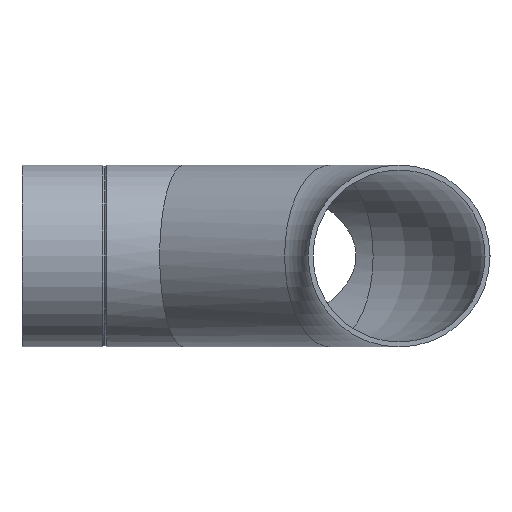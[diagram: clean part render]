
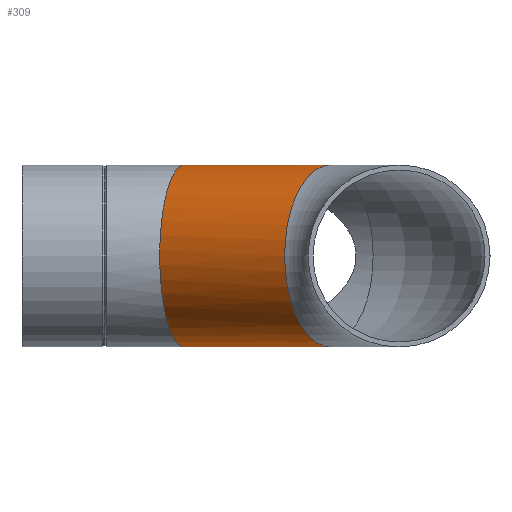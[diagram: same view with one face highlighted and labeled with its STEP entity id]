
A CAD part, front view. The second image highlights one B-rep face of the part: STEP entity #309.
In plain terms, the highlighted cylindrical face has radius 55 mm (diameter 110 mm), a full revolution.
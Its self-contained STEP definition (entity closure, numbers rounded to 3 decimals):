
#14=ELLIPSE($,#346,56.94,55.);
#17=ELLIPSE($,#361,110.,55.);
#37=CYLINDRICAL_SURFACE($,#366,55.);
#64=FACE_BOUND($,#138,.T.);
#89=FACE_OUTER_BOUND($,#137,.T.);
#137=EDGE_LOOP($,(#272));
#138=EDGE_LOOP($,(#273,#274));
#151=CIRCLE($,#330,55.);
#174=VERTEX_POINT($,#506);
#182=VERTEX_POINT($,#529);
#183=VERTEX_POINT($,#530);
#201=EDGE_CURVE($,#174,#174,#151,.T.);
#210=EDGE_CURVE($,#183,#182,#14,.T.);
#218=EDGE_CURVE($,#182,#183,#17,.T.);
#272=ORIENTED_EDGE($,*,*,#201,.T.);
#273=ORIENTED_EDGE($,*,*,#210,.F.);
#274=ORIENTED_EDGE($,*,*,#218,.F.);
#309=ADVANCED_FACE($,(#89,#64),#37,.T.);
#330=AXIS2_PLACEMENT_3D($,#507,#402,#403);
#346=AXIS2_PLACEMENT_3D($,#532,#434,#435);
#361=AXIS2_PLACEMENT_3D($,#554,#464,#465);
#366=AXIS2_PLACEMENT_3D($,#560,#474,#475);
#402=DIRECTION('center_axis',(-0.866,0.5,0.));
#403=DIRECTION('ref_axis',(-0.5,-0.866,0.));
#434=DIRECTION('center_axis',(-0.966,0.259,0.));
#435=DIRECTION('ref_axis',(-0.259,-0.966,0.));
#464=DIRECTION('center_axis',(0.,1.,0.));
#465=DIRECTION('ref_axis',(-1.,0.,0.));
#474=DIRECTION('center_axis',(-0.866,0.5,0.));
#475=DIRECTION('ref_axis',(-0.5,-0.866,0.));
#506=CARTESIAN_POINT('',(186.335,-51.,55.));
#507=CARTESIAN_POINT('Origin',(186.335,-51.,0.));
#529=CARTESIAN_POINT('',(98.,0.,55.));
#530=CARTESIAN_POINT('',(98.,0.,-55.));
#532=CARTESIAN_POINT('Origin',(98.,0.,0.));
#554=CARTESIAN_POINT('Origin',(98.,0.,0.));
#560=CARTESIAN_POINT('Origin',(186.335,-51.,0.));
